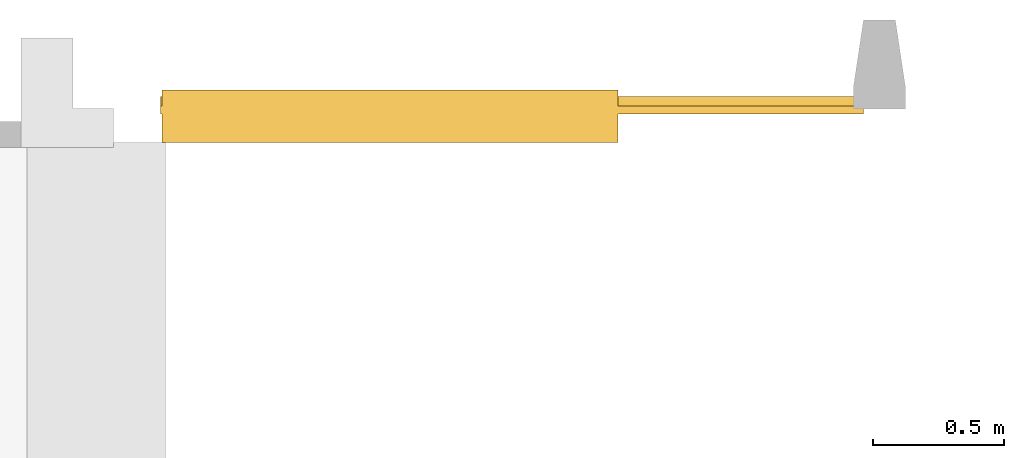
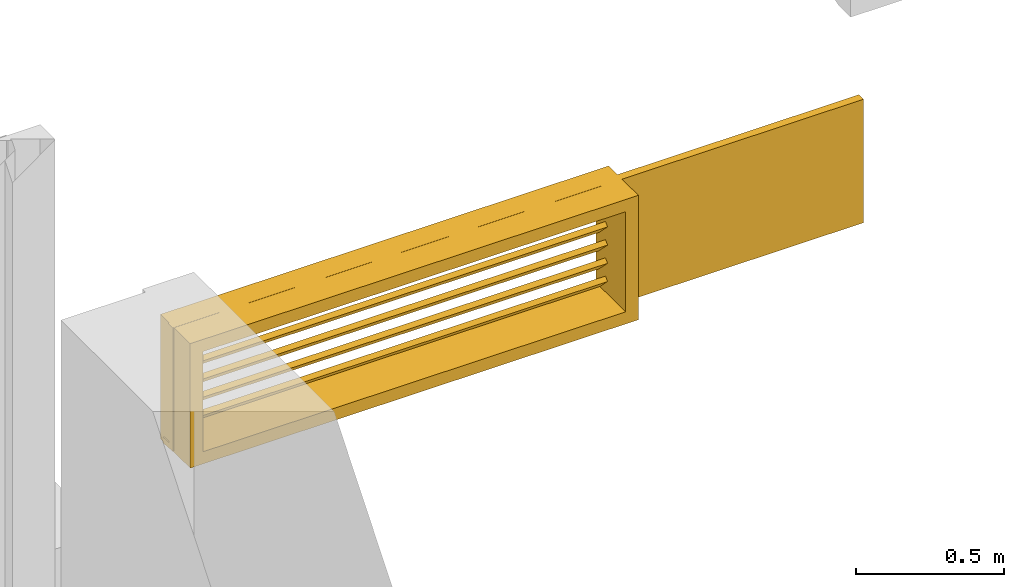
# One storey, part 12 of 13: 1 window.
"""IFC4 building model written with IfcOpenShell, lengths in metres."""

from ifc_helpers import new_model, entity, si_unit, converted_unit, derived_unit, direction, frame, origin, place, context, subcontext, project, spatial, polygons, source, transform, mapped, material, constituent, constituent_set, type_object, type_shapes, element, save


model = new_model("IFC4")

# Units and contexts
model_context = context("Model", 3, precision=1e-05, world=origin(), true_north=direction((6.12303176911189e-17, 1.0)))
body_context = subcontext(model_context, "Body", "Model", "MODEL_VIEW")
ifc_project = project(units=[si_unit("LENGTHUNIT", "METRE"), si_unit("AREAUNIT", "SQUARE_METRE"), si_unit("VOLUMEUNIT", "CUBIC_METRE"), converted_unit("PLANEANGLEUNIT", "DEGREE", entity("IfcRatioMeasure", 0.0174532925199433), si_unit("PLANEANGLEUNIT", "RADIAN"), dimensions=[0, 0, 0, 0, 0, 0, 0]), si_unit("MASSUNIT", "GRAM", prefix="KILO"), derived_unit("MASSDENSITYUNIT", [(si_unit("MASSUNIT", "GRAM", prefix="KILO"), 1), (si_unit("LENGTHUNIT", "METRE"), -3)]), derived_unit("MOMENTOFINERTIAUNIT", [(si_unit("LENGTHUNIT", "METRE"), 4)]), si_unit("TIMEUNIT", "SECOND"), si_unit("FREQUENCYUNIT", "HERTZ"), si_unit("THERMODYNAMICTEMPERATUREUNIT", "DEGREE_CELSIUS"), derived_unit("THERMALTRANSMITTANCEUNIT", [(si_unit("MASSUNIT", "GRAM", prefix="KILO"), 1), (si_unit("THERMODYNAMICTEMPERATUREUNIT", "KELVIN"), -1), (si_unit("TIMEUNIT", "SECOND"), -3)]), derived_unit("VOLUMETRICFLOWRATEUNIT", [(si_unit("LENGTHUNIT", "METRE"), 3), (si_unit("TIMEUNIT", "SECOND"), -1)]), si_unit("ELECTRICCURRENTUNIT", "AMPERE"), si_unit("ELECTRICVOLTAGEUNIT", "VOLT"), si_unit("POWERUNIT", "WATT"), si_unit("FORCEUNIT", "NEWTON", prefix="KILO"), si_unit("ILLUMINANCEUNIT", "LUX"), si_unit("LUMINOUSFLUXUNIT", "LUMEN"), si_unit("LUMINOUSINTENSITYUNIT", "CANDELA"), derived_unit("USERDEFINED", [(si_unit("MASSUNIT", "GRAM", prefix="KILO"), -1), (si_unit("LENGTHUNIT", "METRE"), -2), (si_unit("TIMEUNIT", "SECOND"), 3), (si_unit("LUMINOUSFLUXUNIT", "LUMEN"), 1)]), derived_unit("LINEARVELOCITYUNIT", [(si_unit("LENGTHUNIT", "METRE"), 1), (si_unit("TIMEUNIT", "SECOND"), -1)]), si_unit("PRESSUREUNIT", "PASCAL"), derived_unit("USERDEFINED", [(si_unit("LENGTHUNIT", "METRE"), -2), (si_unit("MASSUNIT", "GRAM", prefix="KILO"), 1), (si_unit("TIMEUNIT", "SECOND"), -2)]), derived_unit("LINEARFORCEUNIT", [(si_unit("MASSUNIT", "GRAM", prefix="KILO"), 1), (si_unit("LENGTHUNIT", "METRE"), 1), (si_unit("TIMEUNIT", "SECOND"), -2), (si_unit("LENGTHUNIT", "METRE"), -1)]), derived_unit("PLANARFORCEUNIT", [(si_unit("MASSUNIT", "GRAM", prefix="KILO"), 1), (si_unit("LENGTHUNIT", "METRE"), 1), (si_unit("TIMEUNIT", "SECOND"), -2), (si_unit("LENGTHUNIT", "METRE"), -2)])], contexts=[model_context])

# Site, building, storey
site_placement = place(None, origin())
site = spatial("IfcSite", under=ifc_project, at=site_placement, Name="Default", CompositionType="ELEMENT")
building_placement = place(site_placement, origin())
building = spatial("IfcBuilding", under=site, at=building_placement, Name="HOTEL CONSULAIRE BOULOGNE SUR MER", CompositionType="ELEMENT")
storey_placement = place(building_placement, frame((0.0, 0.0, -1.40419978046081)))
storey = spatial("IfcBuildingStorey", under=building, at=storey_placement, Name="Demi-niveau", CompositionType="ELEMENT", Elevation=-1.40419978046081)

# Window
ifc_material_1 = material(Name="PVC, souple", Category="Plastique")
ifc_constituent_1 = constituent(ifc_material_1, Name="PVC, souple", Category="Matériaux")
ifc_material_2 = material(Name="Plâtre", Category="Plâtre")
ifc_constituent_2 = constituent(ifc_material_2, Name="Plâtre", Category="Matériaux")
ifc_constituent_set = constituent_set(constituents=[ifc_constituent_1, ifc_constituent_2], Name="MaterialConstituentSet")
window_type = type_object("IfcWindowType", Name="grille fenetre2:grille fenetre", PartitioningType="NOTDEFINED", PredefinedType="WINDOW", material=ifc_material_1)
shared_shape = source(origin(), body_context, "Body", "Tessellation", [
    polygons([(13.3421859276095, -10.0788442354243, -0.65680281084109), (13.3421859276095, -10.092986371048, -0.670944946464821), (13.3421859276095, -10.0335894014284, -0.73034191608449), (13.3421859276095, -10.0194472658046, -0.716199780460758), (11.6966382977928, -10.0788442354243, -0.65680281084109), (11.6966382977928, -10.0194472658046, -0.716199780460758), (11.6966382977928, -10.0335894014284, -0.73034191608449), (11.6966382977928, -10.092986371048, -0.670944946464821)], [[[3, 4, 1, 2]], [[8, 5, 6, 7]], [[6, 5, 1, 4]], [[7, 6, 4, 3]], [[8, 7, 3, 2]], [[5, 8, 2, 1]]], closed=True),
    polygons([(11.6966382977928, -10.0788442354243, -0.95680281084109), (11.6966382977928, -10.0194472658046, -1.01619978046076), (11.6966382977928, -10.0335894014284, -1.03034191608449), (11.6966382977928, -10.092986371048, -0.970944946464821), (13.3421859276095, -10.0788442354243, -0.95680281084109), (13.3421859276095, -10.092986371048, -0.970944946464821), (13.3421859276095, -10.0335894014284, -1.03034191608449), (13.3421859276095, -10.0194472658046, -1.01619978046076)], [[[4, 1, 2, 3]], [[7, 8, 5, 6]], [[2, 1, 5, 8]], [[3, 2, 8, 7]], [[4, 3, 7, 6]], [[1, 4, 6, 5]]], closed=True),
    polygons([(13.3421859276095, -10.0788442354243, -0.73180281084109), (13.3421859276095, -10.092986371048, -0.745944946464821), (13.3421859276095, -10.0335894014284, -0.80534191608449), (13.3421859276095, -10.0194472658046, -0.791199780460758), (11.6966382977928, -10.0788442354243, -0.73180281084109), (11.6966382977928, -10.0194472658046, -0.791199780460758), (11.6966382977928, -10.0335894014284, -0.80534191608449), (11.6966382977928, -10.092986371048, -0.745944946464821)], [[[3, 4, 1, 2]], [[8, 5, 6, 7]], [[6, 5, 1, 4]], [[7, 6, 4, 3]], [[8, 7, 3, 2]], [[5, 8, 2, 1]]], closed=True),
    polygons([(11.6966382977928, -10.0788442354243, -0.80680281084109), (11.6966382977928, -10.0194472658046, -0.866199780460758), (11.6966382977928, -10.0335894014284, -0.88034191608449), (11.6966382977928, -10.092986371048, -0.820944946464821), (13.3421859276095, -10.0788442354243, -0.80680281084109), (13.3421859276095, -10.092986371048, -0.820944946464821), (13.3421859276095, -10.0335894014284, -0.88034191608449), (13.3421859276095, -10.0194472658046, -0.866199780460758)], [[[4, 1, 2, 3]], [[7, 8, 5, 6]], [[2, 1, 5, 8]], [[3, 2, 8, 7]], [[4, 3, 7, 6]], [[1, 4, 6, 5]]], closed=True),
    polygons([(11.6966382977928, -10.0788442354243, -0.88180281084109), (11.6966382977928, -10.0194472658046, -0.941199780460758), (11.6966382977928, -10.0335894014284, -0.95534191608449), (11.6966382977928, -10.092986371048, -0.895944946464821), (13.3421859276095, -10.0788442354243, -0.88180281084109), (13.3421859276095, -10.092986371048, -0.895944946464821), (13.3421859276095, -10.0335894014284, -0.95534191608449), (13.3421859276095, -10.0194472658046, -0.941199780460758)], [[[4, 1, 2, 3]], [[7, 8, 5, 6]], [[2, 1, 5, 8]], [[3, 2, 8, 7]], [[4, 3, 7, 6]], [[1, 4, 6, 5]]], closed=True),
    polygons([(13.3921859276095, -10.0140173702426, -1.07252630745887), (11.6466382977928, -10.0140173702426, -1.07252630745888), (11.6466382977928, -10.0140173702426, -0.559999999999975), (13.3921859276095, -10.0140173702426, -0.559999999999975), (13.3421859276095, -10.0140173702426, -0.609999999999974), (11.6966382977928, -10.0140173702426, -0.609999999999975), (11.6966382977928, -10.0140173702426, -1.02252630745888), (13.3421859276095, -10.0140173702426, -1.02252630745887), (13.3921859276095, -10.2140173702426, -1.07252630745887), (13.3921859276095, -10.2140173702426, -0.559999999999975), (11.6466382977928, -10.2140173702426, -0.559999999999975), (11.6466382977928, -10.2140173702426, -1.07252630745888), (13.3421859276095, -10.2140173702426, -0.609999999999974), (13.3421859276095, -10.2140173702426, -1.02252630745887), (11.6966382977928, -10.2140173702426, -1.02252630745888), (11.6966382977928, -10.2140173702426, -0.609999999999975)], [[[1, 2, 3, 4], [5, 6, 7, 8]], [[12, 9, 10, 11], [16, 13, 14, 15]], [[2, 1, 9, 12]], [[6, 5, 13, 16]], [[3, 2, 12, 11]], [[5, 8, 14, 13]], [[4, 3, 11, 10]], [[8, 7, 15, 14]], [[1, 4, 10, 9]], [[7, 6, 16, 15]]], closed=True),
    polygons([(14.331845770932, -10.0779322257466, -1.04695064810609), (14.331845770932, -10.0390173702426, -1.04952630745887), (13.3921859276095, -10.0390173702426, -1.04952630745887), (13.3921859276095, -10.0779322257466, -1.04695064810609), (14.331845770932, -10.0390173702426, -1.07252630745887), (14.331845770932, -10.1049322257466, -1.0681635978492), (13.3921859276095, -10.1049322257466, -1.0681635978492), (13.3921859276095, -10.0390173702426, -1.07252630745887), (14.331845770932, -10.0739322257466, -0.598950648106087), (14.331845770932, -10.0779322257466, -0.598950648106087), (13.3921859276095, -10.0779322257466, -0.598950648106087), (13.3921859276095, -10.0739322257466, -0.598950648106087), (11.6418953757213, -10.1049322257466, -1.0681635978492), (11.6418953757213, -10.1049322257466, -0.559578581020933), (11.6418953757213, -10.0739322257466, -0.559578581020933), (11.6418953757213, -10.0739322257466, -0.598950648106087), (11.6418953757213, -10.0779322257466, -0.598950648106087), (11.6418953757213, -10.0779322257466, -1.04695064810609), (11.6418953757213, -10.0390173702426, -1.04952630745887), (11.6418953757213, -10.0390173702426, -1.07252630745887), (14.331845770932, -10.0739322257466, -0.559578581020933), (14.331845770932, -10.1049322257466, -0.559578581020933), (11.6466382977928, -10.1049322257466, -1.0681635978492), (11.6466382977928, -10.1049322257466, -0.559999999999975), (13.3921859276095, -10.1049322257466, -0.559999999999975), (13.3921859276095, -10.0739322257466, -0.559999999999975), (11.6466382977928, -10.0739322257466, -0.559999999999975), (11.6466382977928, -10.0739322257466, -0.598950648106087), (11.6466382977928, -10.0779322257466, -0.598950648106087), (11.6466382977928, -10.0779322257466, -1.04695064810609), (11.6466382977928, -10.0390173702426, -1.04952630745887), (11.6466382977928, -10.0390173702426, -1.07252630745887)], [[[3, 4, 1, 2]], [[19, 18, 30, 31]], [[7, 8, 5, 6]], [[13, 20, 32, 23]], [[11, 12, 9, 10]], [[17, 16, 28, 29]], [[26, 25, 24, 27]], [[4, 11, 10, 1]], [[8, 3, 2, 5]], [[15, 21, 9, 12, 26, 27, 28, 16]], [[18, 17, 29, 30]], [[20, 19, 31, 32]], [[18, 19, 20, 13, 14, 15, 16, 17]], [[11, 4, 3, 8, 7, 25, 26, 12]], [[5, 2, 1, 10, 9, 21, 22, 6]], [[23, 32, 31, 30, 29, 28, 27, 24]], [[13, 23, 24, 25, 7, 6, 22, 14]], [[15, 14, 22, 21]]], closed=True),
])
type_shapes(window_type, [shared_shape])
window_placement = place(storey_placement, frame((0.0, 0.0, 1.40419978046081)))
element("IfcWindow", 1, at=window_placement, inside=storey, type_object=window_type, material=ifc_constituent_set, Name="grille fenetre2:grille fenetre", ObjectType="grille fenetre2:grille fenetre", OverallHeight=0.512947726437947, OverallWidth=2.68995039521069, PartitioningType="NOTDEFINED", PredefinedType="WINDOW", context=body_context, shape_type="MappedRepresentation", body=[
    mapped(shared_shape, transform((0.0, 0.0, 0.0), scale=1.0)),
])

save(model, "model.ifc")
